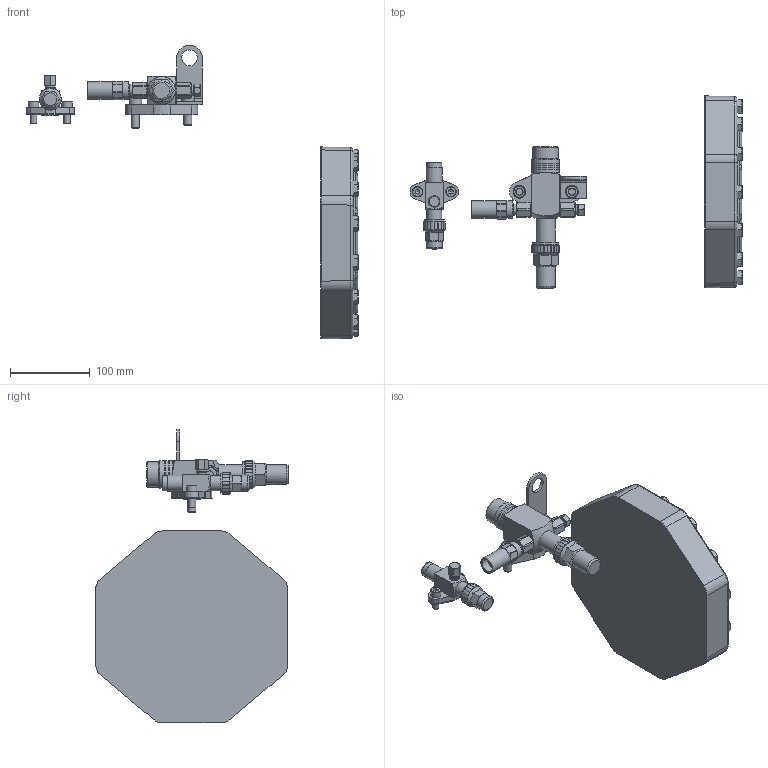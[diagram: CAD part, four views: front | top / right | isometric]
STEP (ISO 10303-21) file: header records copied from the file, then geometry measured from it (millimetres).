
FILE_DESCRIPTION(/* description */ (''),/* implementation_level */ '2;1');
FILE_NAME(/* name */ '4FSL-4ESL.stp',/* time_stamp */ '2023-11-08T07:59:43+01:00',/* author */ (''),/* organization */ (''),/* preprocessor_version */ 'ST-DEVELOPER v19.3',/* originating_system */ 'SIEMENS PLM Software NX2212.3001',/* authorisation */ '');
FILE_SCHEMA (('AUTOMOTIVE_DESIGN { 1 0 10303 214 3 1 1 1 }'));
Length unit declared in the file: millimetre
Products named in the file (4): SHUT-OFF-VALVE-D28-2X1-4; HOUSING-COVER-C2-C3-CO2-SUBCR; SHUT-OFF-VALVE-D16L-CO2; 4FSL-4ESL
Assembly tree (3 placements, depth 2):
  4FSL-4ESL
    SHUT-OFF-VALVE-D16L-CO2
    HOUSING-COVER-C2-C3-CO2-SUBCR
    SHUT-OFF-VALVE-D28-2X1-4
Bounding box: 417.28 x 241.71 x 369.2 mm (x, y, z)
Volume: 2384573 mm3; surface area: 197978.4 mm2
Topology: 3 solids, 3 shells, 880 faces, 2209 edges, 1393 vertices
Faces by surface type: plane 525, cylinder 171, cone 151, bspline 24, torus 9
Full cylindrical faces by diameter (mm): 7.794 x2, 9 x3, 9.5 x1, 10 x2, 11 x2, 12 x1, 12.5 x1, 13 x4, 13.72 x1, 14 x1, 15 x1, 16 x2, 16.1 x1, 17.506 x1, 19 x2, 20 x3, 21 x1, 21.6 x2, 24 x2, 25 x1, 27 x2, 28.2 x1, 28.7 x1, 30 x1, 32 x1, 33 x1, 34.5 x1, 35 x3
Entity records: 31689 total; most frequent: CARTESIAN_POINT 6039, ORIENTED_EDGE 4162, DIRECTION 3974, EDGE_CURVE 2081, AXIS2_PLACEMENT_3D 1415, VERTEX_POINT 1352, LINE 1144, VECTOR 1144
